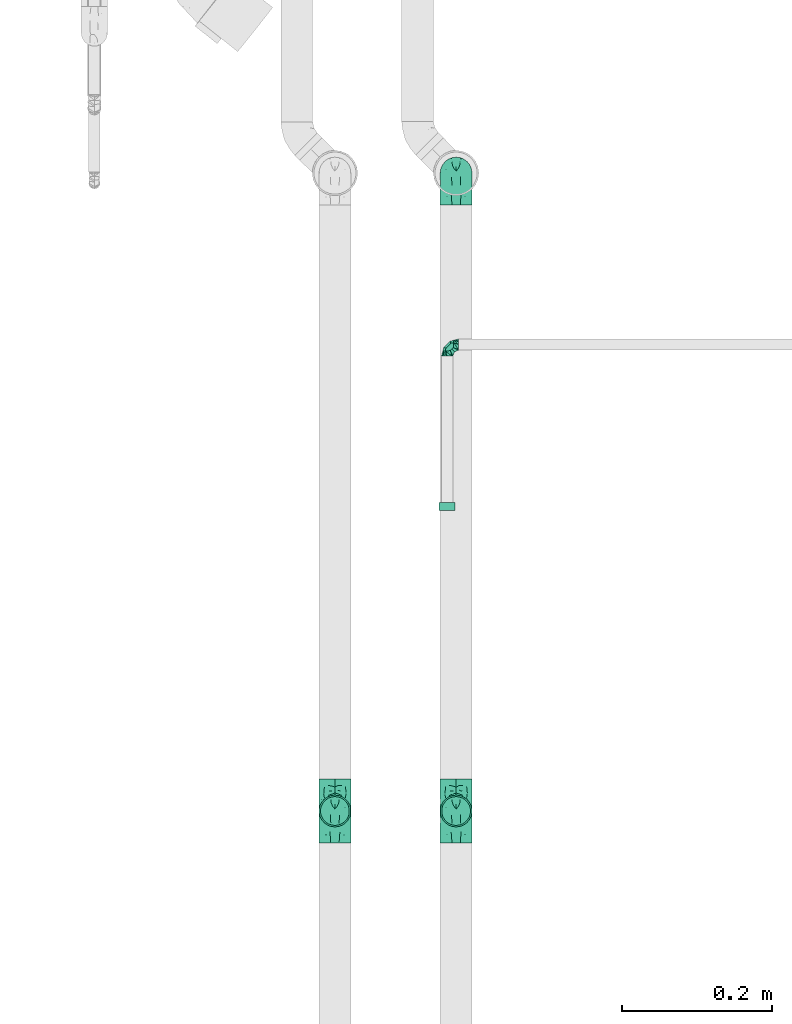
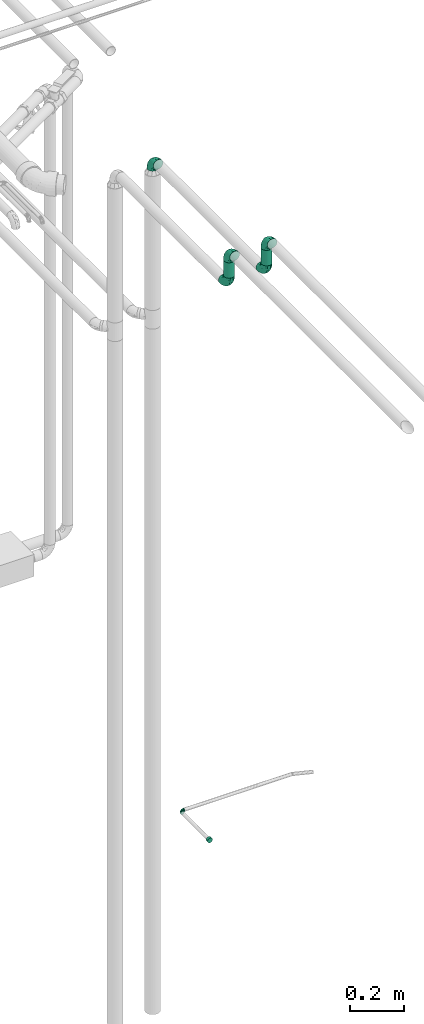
# One storey, part 68 of 108: 7 flow fittings, 2 flow segments.
"""IFC2X3 building model written with IfcOpenShell, lengths in millimetres."""

from ifc_helpers import new_model, entity, si_unit, converted_unit, derived_unit, direction, frame, origin_with_axes, origin_2d_with_axis, place, context, subcontext, project, spatial, hollow_circle, extrude, open_shell, surface_model, source, transform, mapped, type_object, element, save


model = new_model("IFC2X3")

# Units and contexts
model_context = context("Model", 3, precision=0.01, world=frame((0.0, 4.29681676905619e-09, 0.0)), true_north=direction((4.01073788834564e-13, 1.0)))
plan_context = context("Plan", 3, precision=0.01, world=frame((0.0, 4.29681676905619e-09, 0.0)), true_north=direction((4.01073788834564e-13, 1.0)))
body_context = subcontext(model_context, "Body", "Model", "MODEL_VIEW")
ifc_project = project(units=[converted_unit("PLANEANGLEUNIT", "DEGREE", entity("IfcPositiveLengthMeasure", 0.0174532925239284), si_unit("PLANEANGLEUNIT", "RADIAN"), dimensions=[0, 0, 0, 0, 0, 0, 0]), si_unit("AREAUNIT", "SQUARE_METRE"), si_unit("LENGTHUNIT", "METRE", prefix="MILLI"), si_unit("MASSUNIT", "GRAM", prefix="KILO"), si_unit("POWERUNIT", "WATT"), si_unit("PRESSUREUNIT", "PASCAL", prefix="KILO"), si_unit("FORCEUNIT", "NEWTON", prefix="KILO"), si_unit("ELECTRICVOLTAGEUNIT", "VOLT"), si_unit("ELECTRICCURRENTUNIT", "AMPERE"), si_unit("THERMODYNAMICTEMPERATUREUNIT", "DEGREE_CELSIUS"), si_unit("TIMEUNIT", "SECOND"), si_unit("VOLUMEUNIT", "CUBIC_METRE"), derived_unit("LINEARVELOCITYUNIT", [(si_unit("LENGTHUNIT", "METRE"), 1), (si_unit("TIMEUNIT", "SECOND"), -1)]), derived_unit("VOLUMETRICFLOWRATEUNIT", [(si_unit("VOLUMEUNIT", "CUBIC_METRE"), 1), (si_unit("TIMEUNIT", "SECOND"), -1)]), derived_unit("THERMALTRANSMITTANCEUNIT", [(si_unit("POWERUNIT", "WATT"), 1), (si_unit("THERMODYNAMICTEMPERATUREUNIT", "KELVIN"), -1), (si_unit("AREAUNIT", "SQUARE_METRE"), -1)]), derived_unit("SOUNDPRESSUREUNIT", [(si_unit("PRESSUREUNIT", "PASCAL"), 1)])], contexts=[model_context, plan_context])

# Site, building, storey
site_placement = place(None, frame((0.0, -4.29681676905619e-09, 0.0), z_axis=(0.0, 0.0, 1.0), x_axis=(1.0, 0.0, 0.0)))
site = spatial("IfcSite", under=ifc_project, at=site_placement, CompositionType="ELEMENT")
building_placement = place(site_placement, frame((0.0, 4.29681676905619e-09, 0.0), z_axis=(0.0, 0.0, 1.0), x_axis=(1.0, 0.0, 0.0)))
building = spatial("IfcBuilding", under=site, at=building_placement, Name="mc-building", CompositionType="ELEMENT")
storey_placement = place(building_placement, frame((0.0, 0.0, 210200.0), z_axis=(0.0, 0.0, 1.0), x_axis=(1.0, 0.0, 0.0)))
storey = spatial("IfcBuildingStorey", under=building, at=storey_placement, Name="Nivå F - 0,7 m", CompositionType="ELEMENT", Elevation=210200.0)

# Flow fittings
pipe_fitting_type_1 = type_object("IfcPipeFittingType", Name="magi_pipe_fe_elbow_short_001", PredefinedType="BEND")
shared_shape_1 = source(origin_with_axes(), body_context, "Body", "SurfaceModel", [
    surface_model("IfcShellBasedSurfaceModel", [(-42.4, 10.6, -18.35974), (-42.4, 5.48696, -20.47763), (-42.4, 0.0, -21.2), (-42.4, 14.99066, -14.99066), (-42.4, 20.47763, -5.48696), (-42.4, 18.35974, -10.6), (-42.4, -14.99066, 14.99066), (-42.4, -21.2, 0.0), (-42.4, -10.6, -18.35974), (-42.4, -14.99066, -14.99066), (-42.4, -5.48696, -20.47763), (-42.4, -18.35974, -10.6), (-42.4, -20.47763, -5.48696), (-42.4, 10.6, 18.35974), (-42.4, 20.47763, 5.48696), (-42.4, 18.35974, 10.6), (-42.4, 14.99066, 14.99066), (-42.4, 5.48696, 20.47763), (-42.4, 0.0, 21.2), (-42.4, -20.47763, 5.48696), (-42.4, -18.35974, 10.6), (-42.4, -10.6, 18.35974), (-42.4, -5.48696, 20.47763), (-42.4, 21.2, 0.0), (0.0, 42.4, -21.2), (-5.48696, 42.4, -20.47763), (-10.6, 42.4, -18.35974), (-14.99066, 42.4, -14.99066), (-18.35974, 42.4, -10.6), (-20.47763, 42.4, -5.48696), (21.2, 42.4, 0.0), (5.48696, 42.4, -20.47763), (14.99066, 42.4, -14.99066), (10.6, 42.4, -18.35974), (18.35974, 42.4, -10.6), (20.47763, 42.4, -5.48696), (14.99066, 42.4, 14.99066), (-20.47763, 42.4, 5.48696), (-10.6, 42.4, 18.35974), (-14.99066, 42.4, 14.99066), (-18.35974, 42.4, 10.6), (-5.48696, 42.4, 20.47763), (0.0, 42.4, 21.2), (18.35974, 42.4, 10.6), (20.47763, 42.4, 5.48696), (5.48696, 42.4, 20.47763), (10.6, 42.4, 18.35974), (-21.2, 42.4, 0.0), (-31.10239, -16.47009, 11.90111), (-27.83957, -12.231, 15.79732), (-30.23067, -18.77937, 0.0), (-18.74048, -13.50096, 10.69998), (-28.17586, -18.50359, 6.61185), (18.50359, 28.17586, 6.61185), (14.95929, 16.60735, 5.43468), (16.35874, 18.06133, 0.0), (-20.72313, 33.83635, 9.21426), (-17.70981, 33.00599, 13.92769), (-31.16033, -8.01664, 19.07348), (-32.38682, -2.80842, 20.83743), (-29.68688, 3.24967, 21.16387), (-7.74467, -9.46536, 0.0), (-16.60735, -14.95929, 5.43468), (-18.06133, -16.35874, 0.0), (-16.37932, -5.14532, 17.61254), (-21.10659, -0.19025, 20.54817), (-1.82445, -3.58377, 9.55223), (-0.35533, 0.43745, 12.66367), (-7.20655, -5.07682, 13.06146), (-33.14056, 17.6728, 13.91288), (-7.36799, 20.84806, 21.16196), (-15.70315, 15.70315, 20.68489), (-12.62356, 9.26422, 21.0908), (-36.67879, 12.83836, 17.27427), (-7.91358, 36.5686, 19.85759), (-2.90555, 31.71221, 21.14793), (-33.84689, 20.71971, 9.21285), (-33.51649, 22.58113, 4.66115), (-26.3226, 26.3226, 7.92474), (-32.67995, 8.31454, 20.02643), (-5.53379, 14.19921, 20.81623), (-10.53385, 3.88918, 19.79653), (-2.16577, 11.45378, 19.48254), (-3.78693, 3.78693, 17.3328), (12.231, 27.83957, 15.79732), (13.50096, 18.74047, 10.69998), (16.47009, 31.10239, 11.90111), (-22.53806, 14.38475, 19.60876), (-23.29615, 9.08095, 20.82061), (2.80842, 32.38682, 20.83743), (8.01664, 31.16033, 19.07348), (5.14532, 16.37932, 17.61254), (18.77937, 30.23067, 0.0), (-20.80278, 5.19491, 21.19095), (-19.62579, 22.38752, 17.42006), (-29.19336, 14.39093, 17.85259), (-22.31569, 34.20044, 4.54807), (-26.56962, 27.80621, 3.73106), (9.67657, 17.17133, 14.49993), (-24.04026, 31.8, 0.0), (-9.16861, 28.72652, 20.19004), (-12.09761, 21.9456, 20.37969), (-15.36991, 27.40112, 17.818), (-16.88976, 20.52477, 19.2896), (-12.95169, 35.54896, 17.36222), (-17.17133, -9.67657, 14.49993), (-21.98655, 28.10245, 11.99898), (-22.34699, 23.67592, 15.01692), (-27.22822, 22.77969, 11.82161), (0.19025, 21.10658, 20.54817), (4.8276, 7.36347, 13.42842), (-10.06209, -9.46364, 9.95114), (1.25876, -2.7536, 5.73797), (6.43781, 3.77591, 7.40371), (6.57528, 2.20066, 3.17705), (10.91934, 8.84313, 5.00748), (10.64415, 10.99764, 8.89767), (-31.8, 24.04026, 0.0), (-5.71381, -8.43063, 6.15529), (2.57199, -2.57199, 0.0), (9.46536, 7.74467, 0.0), (-17.17133, -9.67657, -14.49993), (-27.83957, -12.231, -15.79732), (-16.37932, -5.14532, -17.61254), (-18.74048, -13.50096, -10.69998), (-33.00599, 17.70981, -13.92769), (-35.54896, 12.95169, -17.36222), (-34.20044, 22.31569, -4.54807), (-28.17586, -18.50359, -6.61185), (-26.3226, 26.3226, -7.92474), (-33.83635, 20.72313, -9.21426), (-16.60735, -14.95929, -5.43468), (-20.52477, 16.88976, -19.2896), (-21.9456, 12.0976, -20.37969), (-27.40112, 15.36991, -17.818), (-12.83836, 36.67879, -17.27427), (-17.6728, 33.14056, -13.91288), (8.01664, 31.16033, -19.07348), (5.14532, 16.37932, -17.61254), (0.19025, 21.10658, -20.54817), (-36.5686, 7.91358, -19.85759), (-31.10239, -16.47009, -11.90111), (-31.16033, -8.01664, -19.07348), (-14.38475, 22.53806, -19.60876), (-8.31454, 32.67995, -20.02643), (-9.08095, 23.29615, -20.82061), (-32.38682, -2.80842, -20.83743), (-20.84806, 7.36799, -21.16196), (-15.70315, 15.70314, -20.68489), (-9.26422, 12.62356, -21.0908), (-31.71221, 2.90555, -21.14793), (-22.58113, 33.51649, -4.66115), (-20.71971, 33.84689, -9.21285), (-28.72652, 9.16861, -20.19004), (-27.80621, 26.56962, -3.73106), (-5.19491, 20.80278, -21.19095), (-22.38752, 19.62579, -17.42006), (-14.39093, 29.19336, -17.85259), (2.80842, 32.38682, -20.83743), (-3.24967, 29.68688, -21.16387), (16.47009, 31.10239, -11.90111), (12.231, 27.83957, -15.79732), (6.57528, 2.20067, -3.17705), (10.91934, 8.84313, -5.00749), (-14.19921, 5.53379, -20.81623), (-3.88918, 10.53385, -19.79653), (-11.45378, 2.16577, -19.48254), (1.25876, -2.7536, -5.73797), (-5.71381, -8.43063, -6.15529), (-1.82445, -3.58377, -9.55223), (13.50096, 18.74048, -10.69998), (18.50359, 28.17586, -6.61185), (14.95929, 16.60735, -5.43468), (-28.10245, 21.98655, -11.99898), (9.67657, 17.17133, -14.49993), (10.64415, 10.99764, -8.89767), (4.8276, 7.36347, -13.42842), (-23.67592, 22.34699, -15.01692), (-22.77969, 27.22822, -11.82161), (-21.10658, -0.19025, -20.54817), (-3.78693, 3.78693, -17.3328), (-7.20655, -5.07682, -13.06146), (-10.06209, -9.46364, -9.95113), (-0.35533, 0.43745, -12.66367), (6.43781, 3.77591, -7.40371)], [open_shell([[[0, 1, 2]], [[3, 0, 2]], [[4, 5, 3]], [[2, 4, 3]], [[6, 2, 7]], [[8, 9, 10]], [[11, 10, 9]], [[12, 7, 11]], [[2, 10, 11]], [[11, 7, 2]], [[6, 4, 2]], [[13, 14, 4]], [[15, 14, 16]], [[4, 6, 13]], [[16, 14, 13]], [[17, 13, 18]], [[19, 20, 7]], [[7, 20, 6]], [[21, 22, 6]], [[18, 6, 22]], [[6, 18, 13]], [[23, 4, 14]], [[24, 25, 26]], [[24, 26, 27]], [[27, 28, 29]], [[27, 29, 24]], [[24, 29, 30]], [[31, 32, 33]], [[31, 24, 32]], [[34, 30, 35]], [[32, 24, 34]], [[24, 30, 34]], [[29, 36, 30]], [[29, 37, 38]], [[39, 37, 40]], [[36, 29, 38]], [[38, 37, 39]], [[41, 42, 38]], [[30, 43, 44]], [[36, 43, 30]], [[36, 45, 46]], [[45, 36, 42]], [[38, 42, 36]], [[37, 29, 47]], [[6, 48, 49]], [[19, 7, 50]], [[51, 48, 52]], [[53, 54, 55]], [[48, 6, 20]], [[19, 52, 20]], [[40, 56, 57]], [[49, 21, 6]], [[49, 58, 21]], [[18, 59, 60]], [[61, 62, 63]], [[58, 64, 65]], [[66, 67, 68]], [[15, 16, 69]], [[70, 71, 72]], [[13, 73, 16]], [[22, 59, 18]], [[41, 74, 75]], [[18, 60, 17]], [[15, 69, 76]], [[16, 73, 69]], [[23, 14, 77]], [[14, 15, 76]], [[77, 76, 78]], [[17, 79, 13]], [[80, 81, 82]], [[68, 83, 64]], [[84, 36, 46]], [[85, 86, 84]], [[87, 79, 88]], [[21, 58, 22]], [[42, 89, 45]], [[53, 44, 43]], [[42, 41, 75]], [[84, 90, 91]], [[43, 86, 53]], [[92, 44, 53]], [[86, 43, 36]], [[90, 46, 45]], [[53, 55, 92]], [[88, 93, 72]], [[54, 53, 85]], [[87, 94, 95]], [[78, 96, 97]], [[98, 84, 91]], [[99, 96, 47]], [[79, 17, 60]], [[96, 78, 56]], [[62, 52, 63]], [[57, 39, 40]], [[100, 70, 75]], [[101, 102, 103]], [[19, 50, 52]], [[104, 38, 39]], [[74, 41, 38]], [[57, 102, 104]], [[105, 64, 49]], [[90, 84, 46]], [[40, 37, 56]], [[56, 106, 57]], [[102, 57, 107]], [[95, 107, 69]], [[76, 108, 78]], [[100, 101, 70]], [[89, 75, 109]], [[64, 58, 49]], [[63, 52, 50]], [[59, 58, 65]], [[105, 49, 51]], [[64, 83, 81]], [[89, 90, 45]], [[30, 44, 92]], [[109, 82, 91]], [[109, 91, 90]], [[91, 83, 110]], [[111, 68, 105]], [[66, 68, 111]], [[62, 51, 52]], [[66, 112, 113]], [[114, 115, 113]], [[98, 85, 84]], [[52, 48, 20]], [[49, 48, 51]], [[84, 86, 36]], [[53, 86, 85]], [[88, 79, 60]], [[73, 79, 95]], [[96, 56, 37]], [[78, 108, 106]], [[87, 103, 94]], [[100, 74, 104]], [[108, 69, 107]], [[78, 97, 77]], [[88, 72, 71]], [[109, 75, 70]], [[81, 72, 65]], [[70, 72, 80]], [[75, 89, 42]], [[90, 89, 109]], [[58, 59, 22]], [[60, 59, 65]], [[67, 83, 68]], [[110, 113, 116]], [[88, 60, 93]], [[87, 88, 71]], [[103, 87, 71]], [[79, 87, 95]], [[101, 103, 71]], [[94, 103, 102]], [[47, 96, 37]], [[96, 99, 97]], [[99, 117, 97]], [[97, 117, 77]], [[23, 77, 117]], [[14, 76, 77]], [[60, 65, 93]], [[65, 72, 93]], [[70, 101, 71]], [[102, 101, 100]], [[69, 108, 76]], [[106, 108, 107]], [[57, 106, 107]], [[78, 106, 56]], [[57, 104, 39]], [[100, 104, 102]], [[102, 107, 94]], [[95, 94, 107]], [[64, 81, 65]], [[82, 81, 83]], [[91, 82, 83]], [[80, 82, 109]], [[70, 80, 109]], [[81, 80, 72]], [[79, 73, 13]], [[69, 73, 95]], [[104, 74, 38]], [[75, 74, 100]], [[62, 61, 118]], [[111, 62, 118]], [[113, 115, 116]], [[119, 118, 61]], [[111, 105, 51]], [[113, 112, 114]], [[120, 55, 54]], [[68, 64, 105]], [[91, 110, 98]], [[116, 98, 110]], [[62, 111, 51]], [[66, 111, 118]], [[112, 66, 118]], [[67, 113, 110]], [[118, 119, 112]], [[114, 112, 119]], [[119, 120, 114]], [[115, 120, 54]], [[120, 115, 114]], [[116, 54, 85]], [[54, 116, 115]], [[116, 85, 98]], [[113, 67, 66]], [[83, 67, 110]], [[121, 122, 123]], [[122, 121, 124]], [[5, 125, 3]], [[3, 126, 0]], [[117, 127, 23]], [[50, 12, 128]], [[127, 129, 130]], [[128, 131, 63]], [[132, 133, 134]], [[27, 135, 136]], [[137, 138, 139]], [[0, 140, 1]], [[128, 11, 141]], [[142, 8, 10]], [[128, 63, 50]], [[5, 4, 130]], [[11, 9, 141]], [[143, 144, 145]], [[146, 10, 2]], [[147, 148, 149]], [[11, 128, 12]], [[124, 141, 122]], [[150, 2, 1]], [[151, 152, 129]], [[125, 134, 126]], [[153, 147, 150]], [[127, 154, 129]], [[145, 155, 149]], [[47, 29, 151]], [[143, 156, 157]], [[152, 29, 28]], [[24, 158, 159]], [[122, 9, 8]], [[27, 26, 135]], [[144, 26, 25]], [[32, 160, 161]], [[24, 31, 158]], [[120, 162, 163]], [[130, 125, 5]], [[27, 136, 28]], [[1, 140, 150]], [[33, 161, 137]], [[142, 122, 8]], [[24, 159, 25]], [[164, 165, 166]], [[167, 168, 169]], [[34, 160, 32]], [[161, 33, 32]], [[170, 160, 171]], [[131, 128, 124]], [[30, 92, 35]], [[35, 92, 171]], [[172, 171, 55]], [[35, 171, 34]], [[144, 25, 159]], [[130, 173, 125]], [[174, 175, 176]], [[136, 152, 28]], [[33, 137, 31]], [[122, 142, 123]], [[134, 125, 177]], [[157, 177, 136]], [[152, 178, 129]], [[153, 133, 147]], [[146, 150, 179]], [[146, 142, 10]], [[7, 12, 50]], [[179, 166, 123]], [[179, 123, 142]], [[123, 180, 181]], [[138, 137, 161]], [[55, 171, 92]], [[158, 137, 139]], [[174, 161, 170]], [[138, 180, 165]], [[180, 138, 176]], [[124, 121, 182]], [[176, 183, 180]], [[61, 131, 168]], [[169, 168, 182]], [[172, 170, 171]], [[122, 141, 9]], [[128, 141, 124]], [[171, 160, 34]], [[161, 160, 170]], [[145, 144, 159]], [[135, 144, 157]], [[127, 130, 4]], [[129, 178, 173]], [[143, 132, 156]], [[153, 140, 126]], [[178, 136, 177]], [[129, 154, 151]], [[145, 149, 148]], [[179, 150, 147]], [[165, 149, 139]], [[147, 149, 164]], [[150, 146, 2]], [[142, 146, 179]], [[137, 158, 31]], [[159, 158, 139]], [[174, 138, 161]], [[184, 169, 183]], [[145, 159, 155]], [[143, 145, 148]], [[132, 143, 148]], [[144, 143, 157]], [[133, 132, 148]], [[156, 132, 134]], [[23, 127, 4]], [[127, 117, 154]], [[117, 99, 154]], [[154, 99, 151]], [[47, 151, 99]], [[29, 152, 151]], [[159, 139, 155]], [[139, 149, 155]], [[147, 133, 148]], [[134, 133, 153]], [[136, 178, 152]], [[173, 178, 177]], [[125, 173, 177]], [[129, 173, 130]], [[125, 126, 3]], [[153, 126, 134]], [[134, 177, 156]], [[157, 156, 177]], [[138, 165, 139]], [[166, 165, 180]], [[123, 166, 180]], [[164, 166, 179]], [[147, 164, 179]], [[165, 164, 149]], [[144, 135, 26]], [[136, 135, 157]], [[126, 140, 0]], [[150, 140, 153]], [[182, 131, 124]], [[168, 119, 61]], [[119, 167, 162]], [[63, 131, 61]], [[172, 163, 175]], [[172, 55, 120]], [[123, 181, 121]], [[182, 121, 181]], [[175, 174, 170]], [[176, 138, 174]], [[169, 182, 181]], [[131, 182, 168]], [[183, 169, 181]], [[167, 169, 184]], [[162, 167, 184]], [[119, 168, 167]], [[163, 162, 184]], [[120, 119, 162]], [[175, 163, 184]], [[120, 163, 172]], [[176, 175, 184]], [[172, 175, 170]], [[180, 183, 181]], [[184, 183, 176]]])]),
])
for number, where, z_axis, x_axis, name in (
    (1, (324610.22236, 462054.12277, 3038.28479999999), (-1.0, 0.0, 0.0), (0.0, 1.0, 0.0), "magi_pipe_fe_elbow_short_001"),
    (2, (324610.22236, 462054.12277, 2883.28479999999), (1.0, 0.0, 0.0), (0.0, 0.0, -1.0), "magi_pipe_fe_elbow_short_001"),
    (3, (324448.8625, 462054.12277, 3038.28479999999), (-1.0, 0.0, 0.0), (0.0, 1.0, 0.0), "magi_pipe_fe_elbow_short_001"),
    (4, (324448.8625, 462054.12277, 2883.28479999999), (1.0, 0.0, 0.0), (0.0, 0.0, -1.0), "magi_pipe_fe_elbow_short_001"),
    (5, (324610.22236, 462903.525, 2883.28479999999), (-1.0, 0.0, 0.0), (0.0, 1.0, 0.0), "magi_pipe_fe_elbow_short_001"),
):
    element("IfcFlowFitting", number, at=place(storey_placement, frame(where, z_axis=z_axis, x_axis=x_axis)), inside=storey, type_object=pipe_fitting_type_1, Name=name, context=body_context, shape_type="MappedRepresentation", body=[
        mapped(shared_shape_1, transform((0.0, 0.0, 0.0), scale=1.0)),
    ])
pipe_fitting_type_2 = type_object("IfcPipeFittingType", Name="magi_pipe_elbow_short_001", PredefinedType="BEND")
shared_shape_2 = source(origin_with_axes(), body_context, "Body", "SurfaceModel", [
    surface_model("IfcShellBasedSurfaceModel", [(-15.0, 0.0, -7.5), (-15.0, -6.49519, -3.75), (-15.0, 1.94114, -7.24444), (-15.0, 3.75, -6.49519), (-15.0, 5.3033, -5.3033), (-15.0, 7.24444, -1.94114), (-15.0, 6.49519, -3.75), (-15.0, -5.3033, -5.3033), (-15.0, -3.75, -6.49519), (-15.0, -1.94114, -7.24444), (-15.0, -7.24444, -1.94114), (-15.0, -7.5, 0.0), (-15.0, -6.49519, 3.75), (-15.0, 7.24444, 1.94114), (-15.0, 6.49519, 3.75), (-15.0, 3.75, 6.49519), (-15.0, 1.94114, 7.24444), (-15.0, 5.3033, 5.3033), (-15.0, -5.3033, 5.3033), (-15.0, -7.24444, 1.94114), (-15.0, -1.94114, 7.24444), (-15.0, 0.0, 7.5), (-15.0, -3.75, 6.49519), (-15.0, 7.5, 0.0), (-1.94114, 15.0, -7.24444), (6.49519, 15.0, -3.75), (0.0, 15.0, -7.5), (-5.3033, 15.0, -5.3033), (-3.75, 15.0, -6.49519), (-6.49519, 15.0, -3.75), (-7.24444, 15.0, -1.94114), (3.75, 15.0, -6.49519), (5.3033, 15.0, -5.3033), (1.94114, 15.0, -7.24444), (7.5, 15.0, 0.0), (7.24444, 15.0, -1.94114), (-7.24444, 15.0, 1.94114), (6.49519, 15.0, 3.75), (-3.75, 15.0, 6.49519), (-6.49519, 15.0, 3.75), (-1.94114, 15.0, 7.24444), (-5.3033, 15.0, 5.3033), (5.3033, 15.0, 5.3033), (7.24444, 15.0, 1.94114), (3.75, 15.0, 6.49519), (0.0, 15.0, 7.5), (1.94114, 15.0, 7.24444), (-7.5, 15.0, 0.0), (-13.40845, -7.07355, 0.0), (-8.7589, -2.47707, 6.60232), (-8.6338, -5.79418, 0.0), (-3.75, -4.48557, 0.0), (0.36779, -0.36779, 0.0), (2.42668, 1.69111, 0.0), (-2.25176, 0.98822, 6.3797), (-1.69111, -2.42668, 0.0), (-11.8169, -6.64709, 0.0), (-5.9304, 5.9304, 7.17811), (-4.11647, 8.02676, 7.20749), (2.47708, 8.7589, 6.60232), (1.67739, 4.87408, 5.99192), (4.48557, 3.75, 0.0), (-4.78013, -1.73268, 5.91836), (7.07355, 13.40845, 0.0), (6.64709, 11.8169, 0.0), (-8.02675, 4.11647, 7.20749), (-8.59835, 12.34835, 0.0), (-12.34835, 8.59835, 0.0), (-9.6967, 9.6967, 0.0), (5.79418, 8.6338, 0.0), (-8.7589, -2.47707, -6.60232), (-4.11647, 8.02676, -7.20749), (0.71542, 3.43733, -5.99192), (-2.23993, 1.78364, -6.69976), (2.47708, 8.7589, -6.60232), (-11.39207, 6.08032, -5.22727), (-7.08629, 1.82323, -7.49084), (-8.19523, 6.76007, -6.13545)], [open_shell([[[0, 1, 2]], [[3, 2, 4]], [[5, 6, 4]], [[4, 2, 1]], [[5, 4, 1]], [[7, 1, 8]], [[9, 8, 1]], [[10, 11, 1]], [[0, 9, 1]], [[11, 12, 1]], [[12, 5, 1]], [[13, 5, 12]], [[14, 13, 15]], [[13, 16, 15]], [[17, 14, 15]], [[16, 13, 12]], [[12, 18, 16]], [[12, 11, 19]], [[20, 21, 22]], [[18, 22, 21]], [[16, 18, 21]], [[13, 23, 5]], [[24, 25, 26]], [[27, 24, 28]], [[27, 29, 30]], [[25, 24, 27]], [[25, 27, 30]], [[31, 25, 32]], [[25, 31, 33]], [[25, 34, 35]], [[25, 33, 26]], [[30, 34, 25]], [[30, 36, 34]], [[34, 36, 37]], [[38, 36, 39]], [[38, 40, 36]], [[38, 39, 41]], [[37, 36, 40]], [[40, 42, 37]], [[43, 34, 37]], [[44, 45, 46]], [[45, 44, 42]], [[45, 42, 40]], [[36, 30, 47]], [[19, 48, 12]], [[49, 50, 51]], [[52, 53, 54]], [[54, 55, 52]], [[22, 18, 56]], [[12, 56, 18]], [[57, 54, 58]], [[22, 50, 20]], [[21, 20, 50]], [[59, 60, 61]], [[59, 58, 60]], [[55, 54, 62]], [[21, 50, 49]], [[21, 49, 16]], [[62, 49, 51]], [[62, 51, 55]], [[37, 63, 43]], [[49, 15, 16]], [[64, 63, 37]], [[13, 65, 23]], [[14, 17, 49]], [[54, 65, 62]], [[15, 49, 17]], [[57, 58, 66]], [[67, 57, 68]], [[53, 60, 54]], [[46, 45, 69]], [[69, 44, 46]], [[41, 59, 38]], [[40, 59, 45]], [[42, 44, 64]], [[54, 60, 58]], [[64, 44, 69]], [[61, 60, 53]], [[43, 63, 34]], [[59, 61, 69]], [[58, 47, 66]], [[22, 56, 50]], [[54, 57, 65]], [[49, 65, 14]], [[36, 47, 58]], [[64, 37, 42]], [[39, 36, 58]], [[14, 65, 13]], [[41, 39, 59]], [[19, 11, 48]], [[39, 58, 59]], [[48, 56, 12]], [[38, 59, 40]], [[59, 69, 45]], [[49, 62, 65]], [[57, 67, 65]], [[66, 68, 57]], [[67, 23, 65]], [[70, 50, 0]], [[71, 72, 73]], [[74, 71, 29]], [[70, 2, 3]], [[70, 51, 50]], [[35, 34, 63]], [[75, 4, 6]], [[75, 5, 23]], [[6, 5, 75]], [[51, 76, 55]], [[75, 23, 67]], [[70, 4, 75]], [[48, 11, 10]], [[8, 56, 7]], [[0, 50, 9]], [[51, 70, 76]], [[56, 8, 50]], [[8, 9, 50]], [[70, 0, 2]], [[66, 47, 71]], [[52, 72, 53]], [[4, 70, 3]], [[70, 75, 76]], [[73, 52, 55]], [[71, 68, 66]], [[61, 53, 72]], [[31, 64, 69]], [[30, 71, 47]], [[27, 74, 29]], [[56, 1, 7]], [[28, 24, 74]], [[63, 64, 25]], [[56, 48, 1]], [[28, 74, 27]], [[1, 48, 10]], [[26, 74, 24]], [[33, 69, 26]], [[29, 71, 30]], [[32, 64, 31]], [[69, 33, 31]], [[68, 71, 77]], [[74, 26, 69]], [[25, 35, 63]], [[61, 72, 74]], [[61, 74, 69]], [[67, 77, 75]], [[74, 72, 71]], [[25, 64, 32]], [[76, 77, 73]], [[75, 77, 76]], [[77, 71, 73]], [[55, 76, 73]], [[72, 52, 73]], [[77, 67, 68]]])]),
])
flow_fitting_1_placement = place(storey_placement, frame((324598.31018, 462675.12547, 58.8447400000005), z_axis=(0.0, 0.0, 1.0), x_axis=(-1.0, 0.0, 0.0)))
element("IfcFlowFitting", 6, at=flow_fitting_1_placement, inside=storey, type_object=pipe_fitting_type_2, Name="magi_pipe_elbow_short_001", context=body_context, shape_type="MappedRepresentation", body=[
    mapped(shared_shape_2, transform((0.0, 0.0, 0.0), scale=1.0)),
])
pipe_fitting_type_3 = type_object("IfcPipeFittingType", Name="magi_pipe_fe_plug_001", PredefinedType="OBSTRUCTION")
shared_shape_3 = source(origin_with_axes(), body_context, "Body", "SurfaceModel", [
    surface_model("IfcShellBasedSurfaceModel", [(0.0, 5.35, -9.26647), (0.0, 2.76936, -10.33541), (0.0, 0.0, -10.7), (0.0, 7.56604, -7.56604), (0.0, 9.26647, -5.35), (0.0, 0.0, 10.7), (0.0, -7.56604, -7.56604), (0.0, -10.7, 0.0), (0.0, -2.76936, -10.33541), (0.0, -5.35, -9.26647), (0.0, -10.33541, -2.76936), (0.0, -9.26647, -5.35), (0.0, 10.33541, -2.76936), (0.0, 10.7, 0.0), (0.0, 10.33541, 2.76936), (0.0, 2.76936, 10.33541), (0.0, 9.26647, 5.35), (0.0, 5.35, 9.26647), (0.0, 7.56604, 7.56604), (0.0, -9.26647, 5.35), (0.0, -7.56604, 7.56604), (0.0, -10.33541, 2.76936), (0.0, -5.35, 9.26647), (0.0, -2.76936, 10.33541), (10.7, 0.0, -10.7), (10.7, 2.76936, -10.33541), (10.7, 5.35, -9.26647), (10.7, -2.76936, -10.33541), (10.7, 9.26647, 5.35), (10.7, -10.7, 0.0), (10.7, 7.56604, -7.56604), (10.7, 10.7, 0.0), (10.7, 9.26647, -5.35), (10.7, -7.56604, -7.56604), (10.7, -5.35, -9.26647), (10.7, -10.33541, -2.76936), (10.7, -9.26647, -5.35), (10.7, 10.33541, -2.76936), (10.7, 10.33541, 2.76936), (10.7, 2.76936, 10.33541), (10.7, 5.35, 9.26647), (10.7, 7.56604, 7.56604), (10.7, 0.0, 10.7), (10.7, -10.33541, 2.76936), (10.7, -7.56604, 7.56604), (10.7, -9.26647, 5.35), (10.7, -2.76936, 10.33541), (10.7, -5.35, 9.26647)], [open_shell([[[0, 1, 2]], [[3, 0, 2]], [[4, 3, 5]], [[6, 3, 2]], [[3, 7, 5]], [[8, 9, 2]], [[9, 6, 2]], [[10, 7, 11]], [[6, 11, 7]], [[6, 7, 3]], [[12, 4, 13]], [[14, 13, 15]], [[16, 14, 15]], [[16, 15, 17]], [[18, 16, 17]], [[5, 15, 13]], [[19, 20, 21]], [[5, 21, 20]], [[22, 23, 20]], [[5, 20, 23]], [[21, 5, 7]], [[13, 4, 5]], [[24, 25, 26]], [[27, 24, 26]], [[28, 29, 30]], [[26, 30, 27]], [[31, 30, 32]], [[27, 33, 34]], [[33, 27, 35]], [[33, 35, 36]], [[35, 27, 29]], [[27, 30, 29]], [[32, 37, 31]], [[38, 28, 30]], [[39, 29, 28]], [[40, 39, 28]], [[40, 28, 41]], [[29, 39, 42]], [[43, 44, 45]], [[44, 43, 46]], [[44, 46, 47]], [[43, 29, 46]], [[42, 46, 29]], [[30, 31, 38]], [[43, 7, 29]], [[45, 21, 43]], [[20, 44, 47]], [[45, 44, 19]], [[22, 47, 46]], [[45, 19, 21]], [[21, 7, 43]], [[23, 42, 5]], [[23, 22, 46]], [[20, 47, 22]], [[20, 19, 44]], [[42, 23, 46]], [[40, 15, 39]], [[41, 17, 40]], [[16, 28, 38]], [[41, 28, 18]], [[14, 38, 31]], [[40, 17, 15]], [[15, 5, 39]], [[14, 16, 38]], [[18, 28, 16]], [[18, 17, 41]], [[13, 14, 31]], [[39, 5, 42]], [[37, 13, 31]], [[32, 12, 37]], [[3, 30, 26]], [[32, 30, 4]], [[0, 26, 25]], [[32, 4, 12]], [[12, 13, 37]], [[1, 24, 2]], [[1, 0, 25]], [[3, 26, 0]], [[3, 4, 30]], [[24, 1, 25]], [[34, 8, 27]], [[33, 9, 34]], [[11, 36, 35]], [[33, 36, 6]], [[10, 35, 29]], [[34, 9, 8]], [[8, 2, 27]], [[10, 11, 35]], [[6, 36, 11]], [[6, 9, 33]], [[7, 10, 29]], [[27, 2, 24]]])]),
])
flow_fitting_2_placement = place(storey_placement, frame((324598.31018, 462465.12547, 58.8447400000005), z_axis=(0.0, 0.0, 1.0), x_axis=(0.0, -1.0, 0.0)))
element("IfcFlowFitting", 7, at=flow_fitting_2_placement, inside=storey, type_object=pipe_fitting_type_3, Name="magi_pipe_fe_plug_001", context=body_context, shape_type="MappedRepresentation", body=[
    mapped(shared_shape_3, transform((0.0, 0.0, 0.0), scale=1.0)),
])

# Flow segments
pipe_segment_type = type_object("IfcPipeSegmentType", Name="Stålrør normaltykke", PredefinedType="RIGIDSEGMENT")
shared_shape_4 = source(origin_with_axes(), body_context, "Body", "SweptSolid", [
    extrude(hollow_circle(Radius=21.2, WallThickness=2.0, at=origin_2d_with_axis()), frame((0.0, 0.0, 0.0), z_axis=(1.0, 0.0, 0.0), x_axis=(0.0, 1.0, 0.0)), (0.0, 0.0, 1.0), 70.2),
])
for number, where, z_axis, x_axis in (
    (8, (324610.22236, 462054.12277, 2995.8848), (-1.0, 0.0, 0.0), (0.0, 0.0, -1.0)),
    (9, (324448.8625, 462054.12277, 2995.8848), (-1.0, 0.0, 0.0), (0.0, 0.0, -1.0)),
):
    element("IfcFlowSegment", number, at=place(storey_placement, frame(where, z_axis=z_axis, x_axis=x_axis)), inside=storey, type_object=pipe_segment_type, Name="Stålrør normaltykke", context=body_context, shape_type="MappedRepresentation", body=[
        mapped(shared_shape_4, transform((0.0, 0.0, 0.0), scale=1.0)),
    ])

save(model, "model.ifc")
